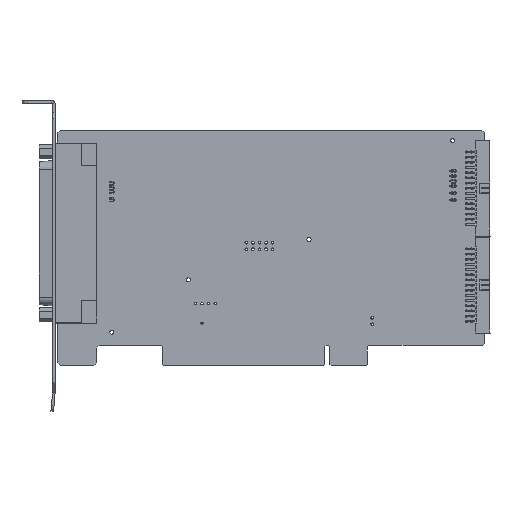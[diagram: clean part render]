
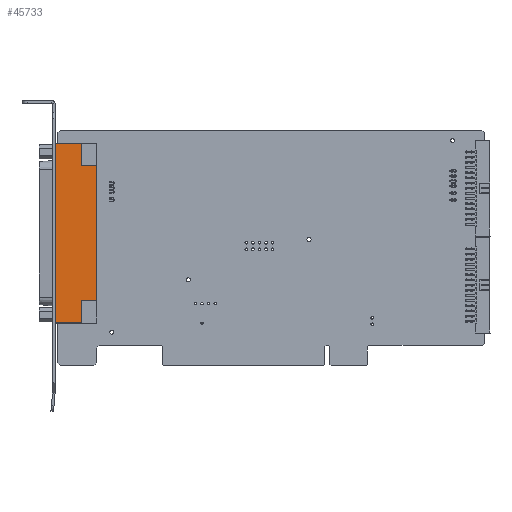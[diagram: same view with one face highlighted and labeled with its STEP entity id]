
A CAD part, top view. The second image highlights one B-rep face of the part: STEP entity #45733.
In plain terms, the highlighted planar face has unit normal (0, 0, 1).
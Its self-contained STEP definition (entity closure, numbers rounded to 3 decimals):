
#461 = EDGE_CURVE ( 'NONE', #21220, #31178, #35071, .T. ) ;
#709 = VERTEX_POINT ( 'NONE', #60919 ) ;
#978 = VECTOR ( 'NONE', #5614, 1000. ) ;
#1077 = CARTESIAN_POINT ( 'NONE',  ( 15.04, 77.278, 12.5 ) ) ;
#2634 = ORIENTED_EDGE ( 'NONE', *, *, #55911, .T. ) ;
#5614 = DIRECTION ( 'NONE',  ( 0., 1., 0. ) ) ;
#6133 = CARTESIAN_POINT ( 'NONE',  ( 9.04, 24.978, 12.5 ) ) ;
#7771 = LINE ( 'NONE', #59930, #63058 ) ;
#8464 = CARTESIAN_POINT ( 'NONE',  ( -1.06, 16.428, 12.5 ) ) ;
#9062 = VECTOR ( 'NONE', #30014, 1000. ) ;
#10767 = ORIENTED_EDGE ( 'NONE', *, *, #90494, .T. ) ;
#12516 = ORIENTED_EDGE ( 'NONE', *, *, #77188, .T. ) ;
#17061 = DIRECTION ( 'NONE',  ( 0., 0., 1. ) ) ;
#19290 = DIRECTION ( 'NONE',  ( -1., 0., 0. ) ) ;
#19385 = VECTOR ( 'NONE', #89023, 1000. ) ;
#20048 = LINE ( 'NONE', #72714, #60072 ) ;
#21220 = VERTEX_POINT ( 'NONE', #43378 ) ;
#21965 = CARTESIAN_POINT ( 'NONE',  ( -1.06, 16.428, 12.5 ) ) ;
#28953 = AXIS2_PLACEMENT_3D ( 'NONE', #8464, #17061, #31438 ) ;
#30014 = DIRECTION ( 'NONE',  ( 0., -1., 0. ) ) ;
#30724 = VECTOR ( 'NONE', #19290, 1000. ) ;
#31178 = VERTEX_POINT ( 'NONE', #58622 ) ;
#31438 = DIRECTION ( 'NONE',  ( 1., 0., 0. ) ) ;
#33732 = LINE ( 'NONE', #92175, #85884 ) ;
#35071 = LINE ( 'NONE', #63323, #30724 ) ;
#37686 = LINE ( 'NONE', #74073, #9062 ) ;
#41833 = VERTEX_POINT ( 'NONE', #52599 ) ;
#43378 = CARTESIAN_POINT ( 'NONE',  ( 9.04, 85.828, 12.5 ) ) ;
#45733 = ADVANCED_FACE ( 'NONE', ( #65488 ), #52046, .T. ) ;
#45747 = EDGE_CURVE ( 'NONE', #31178, #48469, #37686, .T. ) ;
#47859 = CARTESIAN_POINT ( 'NONE',  ( 9.04, 16.428, 12.5 ) ) ;
#48469 = VERTEX_POINT ( 'NONE', #21965 ) ;
#49546 = EDGE_LOOP ( 'NONE', ( #10767, #55783, #53024, #2634, #94475, #77247, #58512, #12516 ) ) ;
#49673 = LINE ( 'NONE', #50146, #978 ) ;
#50146 = CARTESIAN_POINT ( 'NONE',  ( 15.04, 16.428, 12.5 ) ) ;
#50762 = CARTESIAN_POINT ( 'NONE',  ( 9.04, 77.278, 12.5 ) ) ;
#52046 = PLANE ( 'NONE',  #28953 ) ;
#52599 = CARTESIAN_POINT ( 'NONE',  ( 15.04, 24.978, 12.5 ) ) ;
#53024 = ORIENTED_EDGE ( 'NONE', *, *, #93003, .T. ) ;
#55783 = ORIENTED_EDGE ( 'NONE', *, *, #68209, .T. ) ;
#55911 = EDGE_CURVE ( 'NONE', #58761, #21220, #73697, .T. ) ;
#58336 = EDGE_CURVE ( 'NONE', #48469, #709, #7771, .T. ) ;
#58512 = ORIENTED_EDGE ( 'NONE', *, *, #58336, .T. ) ;
#58622 = CARTESIAN_POINT ( 'NONE',  ( -1.06, 85.828, 12.5 ) ) ;
#58761 = VERTEX_POINT ( 'NONE', #50762 ) ;
#59930 = CARTESIAN_POINT ( 'NONE',  ( -1.06, 16.428, 12.5 ) ) ;
#60072 = VECTOR ( 'NONE', #78453, 1000. ) ;
#60919 = CARTESIAN_POINT ( 'NONE',  ( 9.04, 16.428, 12.5 ) ) ;
#63058 = VECTOR ( 'NONE', #89166, 1000. ) ;
#63323 = CARTESIAN_POINT ( 'NONE',  ( -1.06, 85.828, 12.5 ) ) ;
#63579 = VECTOR ( 'NONE', #83808, 1000. ) ;
#65488 = FACE_OUTER_BOUND ( 'NONE', #49546, .T. ) ;
#68209 = EDGE_CURVE ( 'NONE', #41833, #86540, #49673, .T. ) ;
#72714 = CARTESIAN_POINT ( 'NONE',  ( -1.06, 77.278, 12.5 ) ) ;
#73697 = LINE ( 'NONE', #80893, #19385 ) ;
#74073 = CARTESIAN_POINT ( 'NONE',  ( -1.06, 16.428, 12.5 ) ) ;
#77188 = EDGE_CURVE ( 'NONE', #709, #93124, #90993, .T. ) ;
#77247 = ORIENTED_EDGE ( 'NONE', *, *, #45747, .T. ) ;
#78453 = DIRECTION ( 'NONE',  ( -1., 0., 0. ) ) ;
#80893 = CARTESIAN_POINT ( 'NONE',  ( 9.04, 16.428, 12.5 ) ) ;
#83570 = DIRECTION ( 'NONE',  ( 1., 0., 0. ) ) ;
#83808 = DIRECTION ( 'NONE',  ( 0., 1., 0. ) ) ;
#85884 = VECTOR ( 'NONE', #83570, 1000. ) ;
#86540 = VERTEX_POINT ( 'NONE', #1077 ) ;
#89023 = DIRECTION ( 'NONE',  ( 0., 1., 0. ) ) ;
#89166 = DIRECTION ( 'NONE',  ( 1., 0., 0. ) ) ;
#90494 = EDGE_CURVE ( 'NONE', #93124, #41833, #33732, .T. ) ;
#90993 = LINE ( 'NONE', #47859, #63579 ) ;
#92175 = CARTESIAN_POINT ( 'NONE',  ( -1.06, 24.978, 12.5 ) ) ;
#93003 = EDGE_CURVE ( 'NONE', #86540, #58761, #20048, .T. ) ;
#93124 = VERTEX_POINT ( 'NONE', #6133 ) ;
#94475 = ORIENTED_EDGE ( 'NONE', *, *, #461, .T. ) ;
